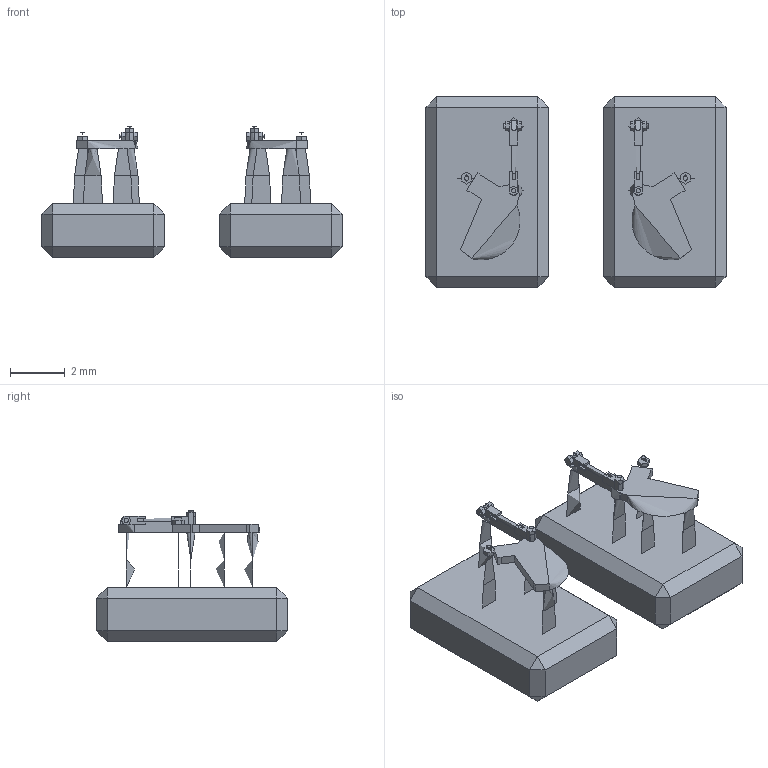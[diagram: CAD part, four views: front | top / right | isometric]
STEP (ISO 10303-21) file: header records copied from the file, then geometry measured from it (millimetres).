
FILE_DESCRIPTION(/* description */ (''),/* implementation_level */ '2;1');
FILE_NAME(/* name */ 'F60B12~1',/* time_stamp */ '2021-04-27T22:09:51+02:00',/* author */ (''),/* organization */ (''),/* preprocessor_version */ 'ST-DEVELOPER v16.5',/* originating_system */ '',/* authorisation */ '');
FILE_SCHEMA (('CONFIG_CONTROL_DESIGN'));
Length unit declared in the file: millimetre
Products named in the file (1): Document
Bounding box: 11 x 7 x 4.82 mm (x, y, z)
Volume: 126.3 mm3; surface area: 256.6 mm2
Topology: 2 solids, 2 shells, 342 faces, 870 edges, 526 vertices
Faces by surface type: plane 228, bspline 68, cylinder 46
Entity records: 10002 total; most frequent: CARTESIAN_POINT 4523, ORIENTED_EDGE 1704, EDGE_CURVE 852, VERTEX_POINT 524, B_SPLINE_CURVE_WITH_KNOTS 407, EDGE_LOOP 368, ADVANCED_FACE 342, FACE_OUTER_BOUND 342
